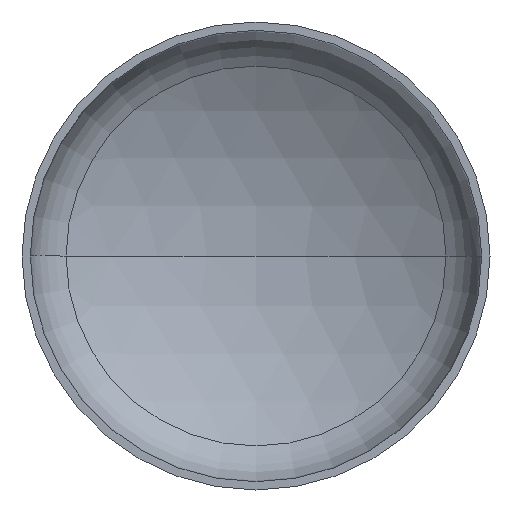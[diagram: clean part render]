
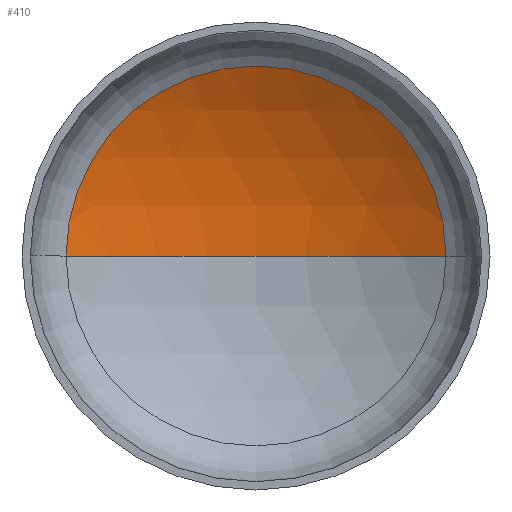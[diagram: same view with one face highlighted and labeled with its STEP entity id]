
A CAD part, front view. The second image highlights one B-rep face of the part: STEP entity #410.
In plain terms, the highlighted spherical face has radius 135 mm.
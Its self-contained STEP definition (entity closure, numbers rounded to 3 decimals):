
#8 = AXIS2_PLACEMENT_3D ( 'NONE', #178, #345, #87 ) ;
#17 = EDGE_CURVE ( 'NONE', #264, #299, #224, .T. ) ;
#23 = DIRECTION ( 'NONE',  ( 0., 0., -1. ) ) ;
#28 = AXIS2_PLACEMENT_3D ( 'NONE', #211, #23, #247 ) ;
#36 = EDGE_CURVE ( 'NONE', #264, #260, #143, .T. ) ;
#54 = CIRCLE ( 'NONE', #73, 68.305 ) ;
#55 = EDGE_CURVE ( 'NONE', #260, #299, #54, .T. ) ;
#73 = AXIS2_PLACEMENT_3D ( 'NONE', #88, #312, #119 ) ;
#87 = DIRECTION ( 'NONE',  ( 1., 0., 0. ) ) ;
#88 = CARTESIAN_POINT ( 'NONE',  ( 0., 42.426, 0. ) ) ;
#119 = DIRECTION ( 'NONE',  ( 1., 0., 0. ) ) ;
#128 = ORIENTED_EDGE ( 'NONE', *, *, #17, .F. ) ;
#131 = CARTESIAN_POINT ( 'NONE',  ( 68.305, 42.426, 0. ) ) ;
#143 = CIRCLE ( 'NONE', #28, 135. ) ;
#178 = CARTESIAN_POINT ( 'NONE',  ( 0., -74.018, 0. ) ) ;
#200 = ORIENTED_EDGE ( 'NONE', *, *, #36, .T. ) ;
#211 = CARTESIAN_POINT ( 'NONE',  ( 0., -74.018, 0. ) ) ;
#224 = CIRCLE ( 'NONE', #8, 135. ) ;
#247 = DIRECTION ( 'NONE',  ( -1., 0., 0. ) ) ;
#260 = VERTEX_POINT ( 'NONE', #131 ) ;
#264 = VERTEX_POINT ( 'NONE', #352 ) ;
#267 = CARTESIAN_POINT ( 'NONE',  ( 0., -74.018, 0. ) ) ;
#286 = FACE_OUTER_BOUND ( 'NONE', #330, .T. ) ;
#297 = DIRECTION ( 'NONE',  ( 0., 0., -1. ) ) ;
#299 = VERTEX_POINT ( 'NONE', #382 ) ;
#312 = DIRECTION ( 'NONE',  ( 0., -1., 0. ) ) ;
#321 = AXIS2_PLACEMENT_3D ( 'NONE', #267, #297, #359 ) ;
#330 = EDGE_LOOP ( 'NONE', ( #128, #200, #336 ) ) ;
#336 = ORIENTED_EDGE ( 'NONE', *, *, #55, .T. ) ;
#345 = DIRECTION ( 'NONE',  ( 0., 0., 1. ) ) ;
#352 = CARTESIAN_POINT ( 'NONE',  ( 0., 60.982, 0. ) ) ;
#359 = DIRECTION ( 'NONE',  ( -1., 0., 0. ) ) ;
#368 = SPHERICAL_SURFACE ( 'NONE', #321, 135. ) ;
#382 = CARTESIAN_POINT ( 'NONE',  ( -68.305, 42.426, 0. ) ) ;
#410 = ADVANCED_FACE ( 'NONE', ( #286 ), #368, .F. ) ;
